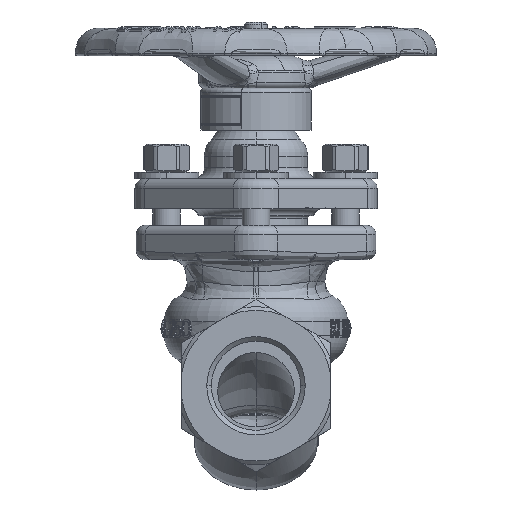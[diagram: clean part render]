
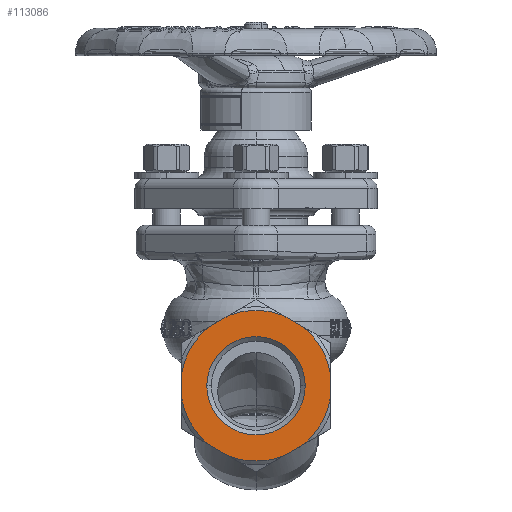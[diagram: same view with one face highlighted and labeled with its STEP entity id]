
A CAD part, left-side view. The second image highlights one B-rep face of the part: STEP entity #113086.
In plain terms, the highlighted planar face has unit normal (-1, 0, 0).
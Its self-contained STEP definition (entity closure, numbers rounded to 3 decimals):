
#29597=DIRECTION('',(0.,-0.866,-0.5));
#29598=VECTOR('',#29597,10.452);
#29599=CARTESIAN_POINT('',(-80.,20.776,-25.533));
#29600=LINE('',#29599,#29598);
#29605=CARTESIAN_POINT('',(-80.,0.,0.));
#29606=DIRECTION('',(1.,0.,0.));
#29607=DIRECTION('',(0.,-1.,0.));
#29608=AXIS2_PLACEMENT_3D('',#29605,#29606,#29607);
#29610=CARTESIAN_POINT('',(-80.,0.,0.));
#29611=DIRECTION('',(1.,0.,0.));
#29612=DIRECTION('',(0.,1.,0.));
#29613=AXIS2_PLACEMENT_3D('',#29610,#29611,#29612);
#29629=CARTESIAN_POINT('',(-80.,0.,0.));
#29630=DIRECTION('',(-1.,0.,0.));
#29631=DIRECTION('',(0.,0.356,-0.934));
#29632=AXIS2_PLACEMENT_3D('',#29629,#29630,#29631);
#29665=DIRECTION('',(0.,-0.866,0.5));
#29666=VECTOR('',#29665,10.452);
#29667=CARTESIAN_POINT('',(-80.,-11.724,-30.759));
#29668=LINE('',#29667,#29666);
#29673=CARTESIAN_POINT('',(-80.,0.,0.));
#29674=DIRECTION('',(-1.,0.,0.));
#29675=DIRECTION('',(0.,-0.631,-0.776));
#29676=AXIS2_PLACEMENT_3D('',#29673,#29674,#29675);
#29696=DIRECTION('',(0.,0.,1.));
#29697=VECTOR('',#29696,10.452);
#29698=CARTESIAN_POINT('',(-80.,-32.5,-5.226));
#29699=LINE('',#29698,#29697);
#29704=CARTESIAN_POINT('',(-80.,0.,0.));
#29705=DIRECTION('',(-1.,0.,0.));
#29706=DIRECTION('',(0.,-0.987,0.159));
#29707=AXIS2_PLACEMENT_3D('',#29704,#29705,#29706);
#29727=DIRECTION('',(0.,0.866,0.5));
#29728=VECTOR('',#29727,10.452);
#29729=CARTESIAN_POINT('',(-80.,-20.776,25.533));
#29730=LINE('',#29729,#29728);
#29735=CARTESIAN_POINT('',(-80.,0.,0.));
#29736=DIRECTION('',(-1.,0.,0.));
#29737=DIRECTION('',(0.,-0.356,0.934));
#29738=AXIS2_PLACEMENT_3D('',#29735,#29736,#29737);
#29763=DIRECTION('',(0.,0.866,-0.5));
#29764=VECTOR('',#29763,10.452);
#29765=CARTESIAN_POINT('',(-80.,11.724,30.759));
#29766=LINE('',#29765,#29764);
#29771=CARTESIAN_POINT('',(-80.,0.,0.));
#29772=DIRECTION('',(-1.,0.,0.));
#29773=DIRECTION('',(0.,0.631,0.776));
#29774=AXIS2_PLACEMENT_3D('',#29771,#29772,#29773);
#29794=DIRECTION('',(0.,0.,-1.));
#29795=VECTOR('',#29794,10.452);
#29796=CARTESIAN_POINT('',(-80.,32.5,5.226));
#29797=LINE('',#29796,#29795);
#29802=CARTESIAN_POINT('',(-80.,0.,0.));
#29803=DIRECTION('',(-1.,0.,0.));
#29804=DIRECTION('',(0.,0.987,-0.159));
#29805=AXIS2_PLACEMENT_3D('',#29802,#29803,#29804);
#62269=CARTESIAN_POINT('',(-80.,-20.776,-25.533));
#62270=CARTESIAN_POINT('',(-80.,-32.5,-5.226));
#62271=VERTEX_POINT('',#62269);
#62272=VERTEX_POINT('',#62270);
#62273=CARTESIAN_POINT('',(-80.,-32.5,5.226));
#62274=CARTESIAN_POINT('',(-80.,-20.776,25.533));
#62275=VERTEX_POINT('',#62273);
#62276=VERTEX_POINT('',#62274);
#62277=CARTESIAN_POINT('',(-80.,20.776,25.533));
#62278=CARTESIAN_POINT('',(-80.,32.5,5.226));
#62279=VERTEX_POINT('',#62277);
#62280=VERTEX_POINT('',#62278);
#62281=CARTESIAN_POINT('',(-80.,32.5,-5.226));
#62282=CARTESIAN_POINT('',(-80.,20.776,-25.533));
#62283=VERTEX_POINT('',#62281);
#62284=VERTEX_POINT('',#62282);
#62301=CARTESIAN_POINT('',(-80.,-11.724,-30.759));
#62302=VERTEX_POINT('',#62301);
#62305=CARTESIAN_POINT('',(-80.,-11.724,30.759));
#62306=VERTEX_POINT('',#62305);
#62309=CARTESIAN_POINT('',(-80.,11.724,30.759));
#62310=VERTEX_POINT('',#62309);
#62313=CARTESIAN_POINT('',(-80.,11.724,-30.759));
#62314=VERTEX_POINT('',#62313);
#62347=CARTESIAN_POINT('',(-80.,-21.476,0.));
#62348=CARTESIAN_POINT('',(-80.,21.476,0.));
#62349=VERTEX_POINT('',#62347);
#62350=VERTEX_POINT('',#62348);
#113050=CARTESIAN_POINT('',(-80.,0.,0.));
#113051=DIRECTION('',(-1.,0.,0.));
#113052=DIRECTION('',(0.,0.,1.));
#113053=AXIS2_PLACEMENT_3D('',#113050,#113051,#113052);
#113054=PLANE('',#113053);
#113056=ORIENTED_EDGE('',*,*,#113055,.F.);
#113057=ORIENTED_EDGE('',*,*,#113029,.F.);
#113059=ORIENTED_EDGE('',*,*,#113058,.F.);
#113061=ORIENTED_EDGE('',*,*,#113060,.F.);
#113063=ORIENTED_EDGE('',*,*,#113062,.F.);
#113065=ORIENTED_EDGE('',*,*,#113064,.F.);
#113067=ORIENTED_EDGE('',*,*,#113066,.F.);
#113069=ORIENTED_EDGE('',*,*,#113068,.F.);
#113071=ORIENTED_EDGE('',*,*,#113070,.F.);
#113073=ORIENTED_EDGE('',*,*,#113072,.F.);
#113075=ORIENTED_EDGE('',*,*,#113074,.F.);
#113077=ORIENTED_EDGE('',*,*,#113076,.F.);
#113078=EDGE_LOOP('',(#113056,#113057,#113059,#113061,#113063,#113065,#113067,
#113069,#113071,#113073,#113075,#113077));
#113079=FACE_OUTER_BOUND('',#113078,.F.);
#113081=ORIENTED_EDGE('',*,*,#113080,.F.);
#113083=ORIENTED_EDGE('',*,*,#113082,.F.);
#113084=EDGE_LOOP('',(#113081,#113083));
#113085=FACE_BOUND('',#113084,.F.);
#113086=ADVANCED_FACE('',(#113079,#113085),#113054,.T.);
#29609=CIRCLE('',#29608,21.476);
#29614=CIRCLE('',#29613,21.476);
#29633=CIRCLE('',#29632,32.918);
#29677=CIRCLE('',#29676,32.918);
#29708=CIRCLE('',#29707,32.918);
#29739=CIRCLE('',#29738,32.918);
#29775=CIRCLE('',#29774,32.918);
#29806=CIRCLE('',#29805,32.918);
#113029=EDGE_CURVE('',#62284,#62314,#29600,.T.);
#113055=EDGE_CURVE('',#62314,#62302,#29633,.T.);
#113058=EDGE_CURVE('',#62283,#62284,#29806,.T.);
#113060=EDGE_CURVE('',#62280,#62283,#29797,.T.);
#113062=EDGE_CURVE('',#62279,#62280,#29775,.T.);
#113064=EDGE_CURVE('',#62310,#62279,#29766,.T.);
#113066=EDGE_CURVE('',#62306,#62310,#29739,.T.);
#113068=EDGE_CURVE('',#62276,#62306,#29730,.T.);
#113070=EDGE_CURVE('',#62275,#62276,#29708,.T.);
#113072=EDGE_CURVE('',#62272,#62275,#29699,.T.);
#113074=EDGE_CURVE('',#62271,#62272,#29677,.T.);
#113076=EDGE_CURVE('',#62302,#62271,#29668,.T.);
#113080=EDGE_CURVE('',#62349,#62350,#29609,.T.);
#113082=EDGE_CURVE('',#62350,#62349,#29614,.T.);
